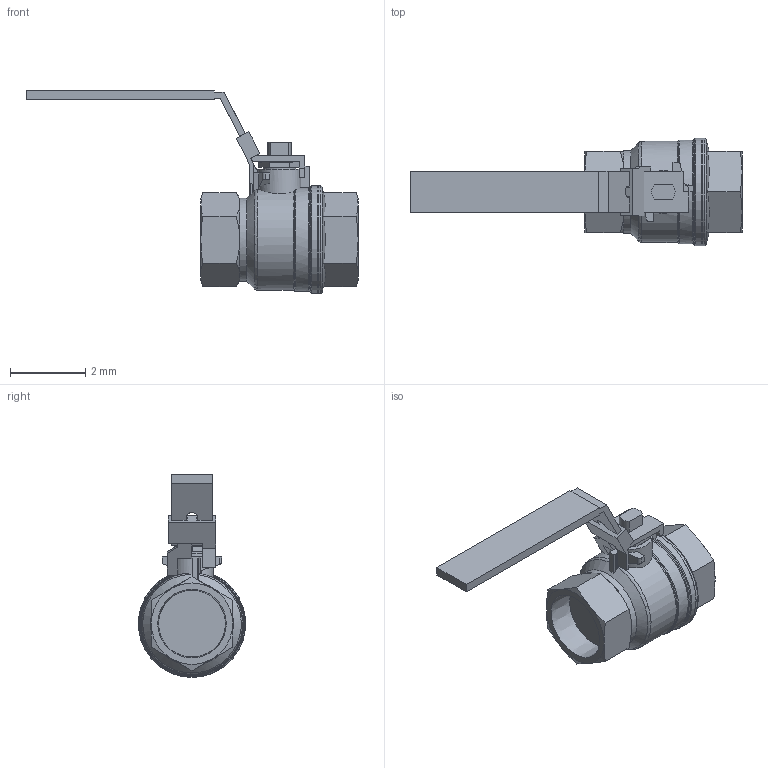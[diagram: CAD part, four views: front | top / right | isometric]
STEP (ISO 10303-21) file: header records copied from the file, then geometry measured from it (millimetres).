
FILE_DESCRIPTION(('Open CASCADE Model'),'2;1');
FILE_NAME('Open CASCADE Shape Model','2022-07-26T13:42:06',('Author'),( 'Open CASCADE'),'Open CASCADE STEP processor 7.3','Open CASCADE 7.3' ,'Unknown');
FILE_SCHEMA(('AUTOMOTIVE_DESIGN { 1 0 10303 214 1 1 1 1 }'));
Length unit declared in the file: millimetre
Products named in the file (5): Open CASCADE STEP translator 7.3 1; Open CASCADE STEP translator 7.3 1.1; Open CASCADE STEP translator 7.3 1.1.1; Open CASCADE STEP translator 7.3 1.1.2; Open CASCADE STEP translator 7.3 1.2
Assembly tree (4 placements, depth 3):
  Open CASCADE STEP translator 7.3 1
    Open CASCADE STEP translator 7.3 1.1
      Open CASCADE STEP translator 7.3 1.1.1
      Open CASCADE STEP translator 7.3 1.1.2
    Open CASCADE STEP translator 7.3 1.2
Bounding box: 8.82 x 2.85 x 5.39 mm (x, y, z)
Volume: 19.8 mm3; surface area: 94.5 mm2
Topology: 3 solids, 3 shells, 153 faces, 414 edges, 272 vertices
Faces by surface type: plane 102, cone 24, cylinder 21, torus 6
Full cylindrical faces by diameter (mm): 0.659 x1, 0.66 x1, 0.864 x1, 2.205 x1, 2.854 x2
Entity records: 12516 total; most frequent: CARTESIAN_POINT 4587, DIRECTION 1386, LINE 862, VECTOR 862, ORIENTED_EDGE 828, PCURVE 828, DEFINITIONAL_REPRESENTATION 828, EDGE_CURVE 414
